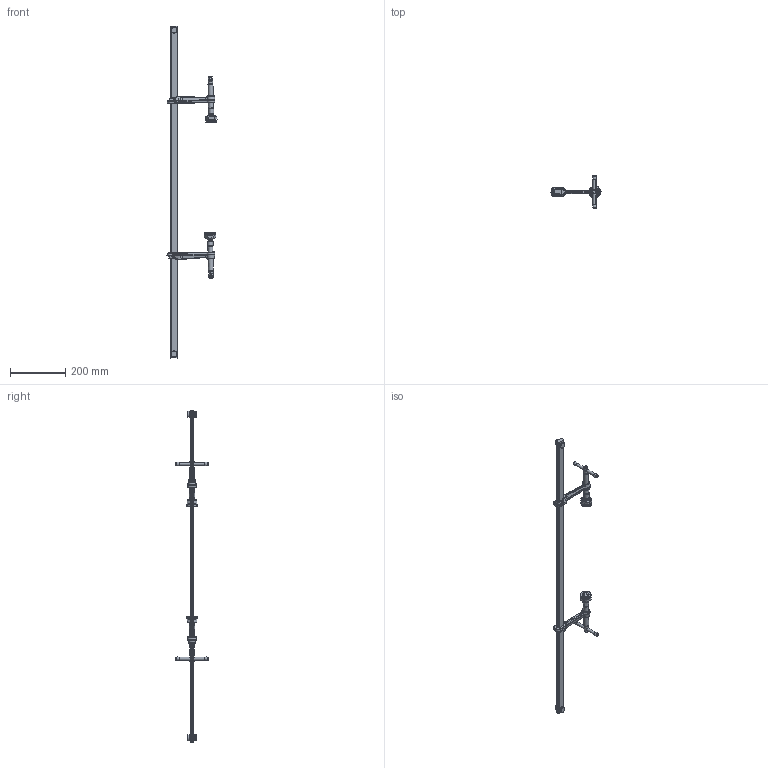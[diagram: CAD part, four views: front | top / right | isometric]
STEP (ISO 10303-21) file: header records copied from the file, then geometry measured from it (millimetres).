
FILE_DESCRIPTION( ('This file contains a STEP AP42 implementation' ,'as created by ZW3D STEP Interface translator.') ,'2;1' );
FILE_NAME( 'SLV100CAD_S.stp' ,'15 710.14 539', (''), ('ZWCAD Software Co.'), 'Version 1.0', 'ZW3D to STEP translator', '' );
FILE_SCHEMA( ('CONFIG_CONTROL_DESIGN') );
Length unit declared in the file: millimetre
Products named in the file (14): 0; SLV100CAD_Zusbau; 3008644CAD_Schiene_27x13_SLV100; 3008689a_Raendelschr_SLV; 3008691a_Raendelmutter_SLV; 3100201CAD_Gleitb-kpl-SGL-M; 3001158c_GB Rohl_GK27x13; 3100211f_Druckpl_kpl_SGL_Sinter; 3007071_Bolzen_HLZ; Druckbackeneinsatz_1; 3007069_Druckplatte_SG; 3007072a_Mutter HLZ neu; 3100122c_Spindel_kpl_SGL-M; 3000048f_Spindel_SGL-M
Assembly tree (15 placements, depth 4):
  0
  SLV100CAD_Zusbau
    3008644CAD_Schiene_27x13_SLV100
      3008689a_Raendelschr_SLV  x2
      3008691a_Raendelmutter_SLV  x2
    3100201CAD_Gleitb-kpl-SGL-M  x2
      3001158c_GB Rohl_GK27x13
      3100211f_Druckpl_kpl_SGL_Sinter
        3007071_Bolzen_HLZ
        Druckbackeneinsatz_1
        3007069_Druckplatte_SG
        3007072a_Mutter HLZ neu
      3100122c_Spindel_kpl_SGL-M
        3000048f_Spindel_SGL-M
Bounding box: 180.81 x 118 x 1200 mm (x, y, z)
Volume: 650094.8 mm3; surface area: 176965.3 mm2
Topology: 25 solids, 25 shells, 888 faces, 2150 edges, 1328 vertices
Faces by surface type: bspline 888
Entity records: 22372 total; most frequent: CARTESIAN_POINT 15077, ORIENTED_EDGE 2198, EDGE_CURVE 1099, B_SPLINE_CURVE_WITH_KNOTS 782, VERTEX_POINT 680, EDGE_LOOP 491, FACE_OUTER_BOUND 454, ADVANCED_FACE 454
